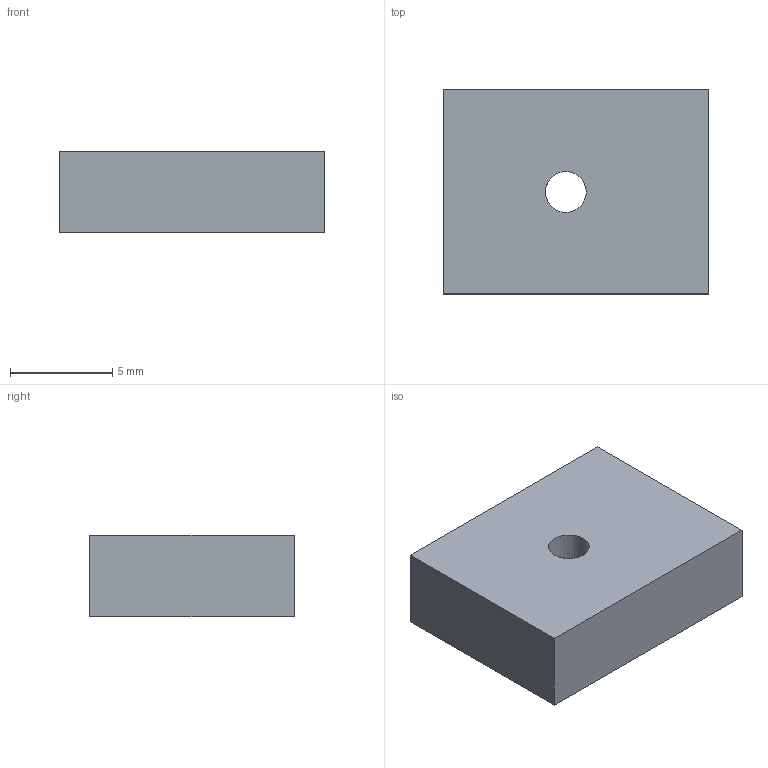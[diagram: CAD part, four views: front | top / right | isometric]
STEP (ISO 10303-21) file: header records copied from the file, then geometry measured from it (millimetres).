
FILE_DESCRIPTION(('Open CASCADE Model'),'2;1');
FILE_NAME('Open CASCADE Shape Model','2000-01-01T00:00:00',('Author'),( 'Open CASCADE'),'Open CASCADE STEP processor 7.9','Open CASCADE 7.9' ,'Unknown');
FILE_SCHEMA(('AUTOMOTIVE_DESIGN { 1 0 10303 214 1 1 1 1 }'));
Length unit declared in the file: millimetre
Products named in the file (1): Open CASCADE STEP translator 7.9 1
Bounding box: 13 x 10 x 4 mm (x, y, z)
Volume: 507.4 mm3; surface area: 462.8 mm2
Topology: 1 solids, 1 shells, 7 faces, 15 edges, 10 vertices
Faces by surface type: plane 6, cylinder 1
Full cylindrical faces by diameter (mm): 2 x1
Entity records: 400 total; most frequent: CARTESIAN_POINT 63, DIRECTION 63, LINE 41, VECTOR 41, ORIENTED_EDGE 30, PCURVE 30, DEFINITIONAL_REPRESENTATION 30, EDGE_CURVE 15
